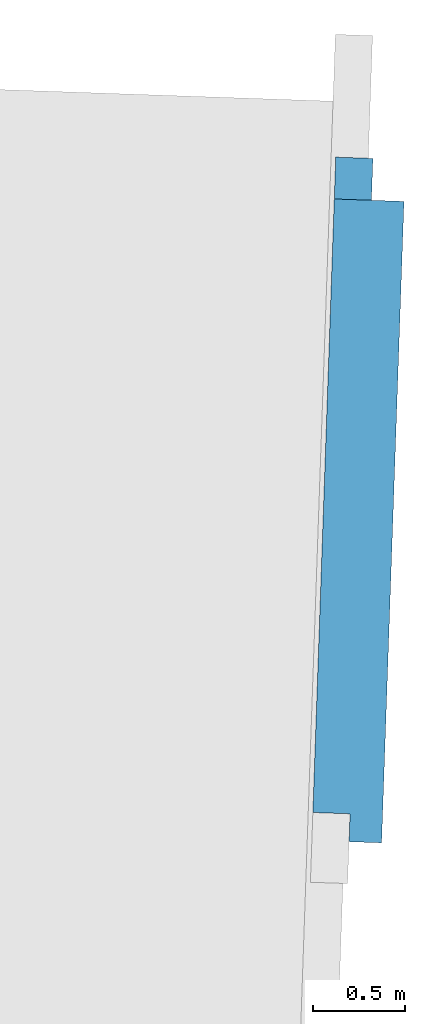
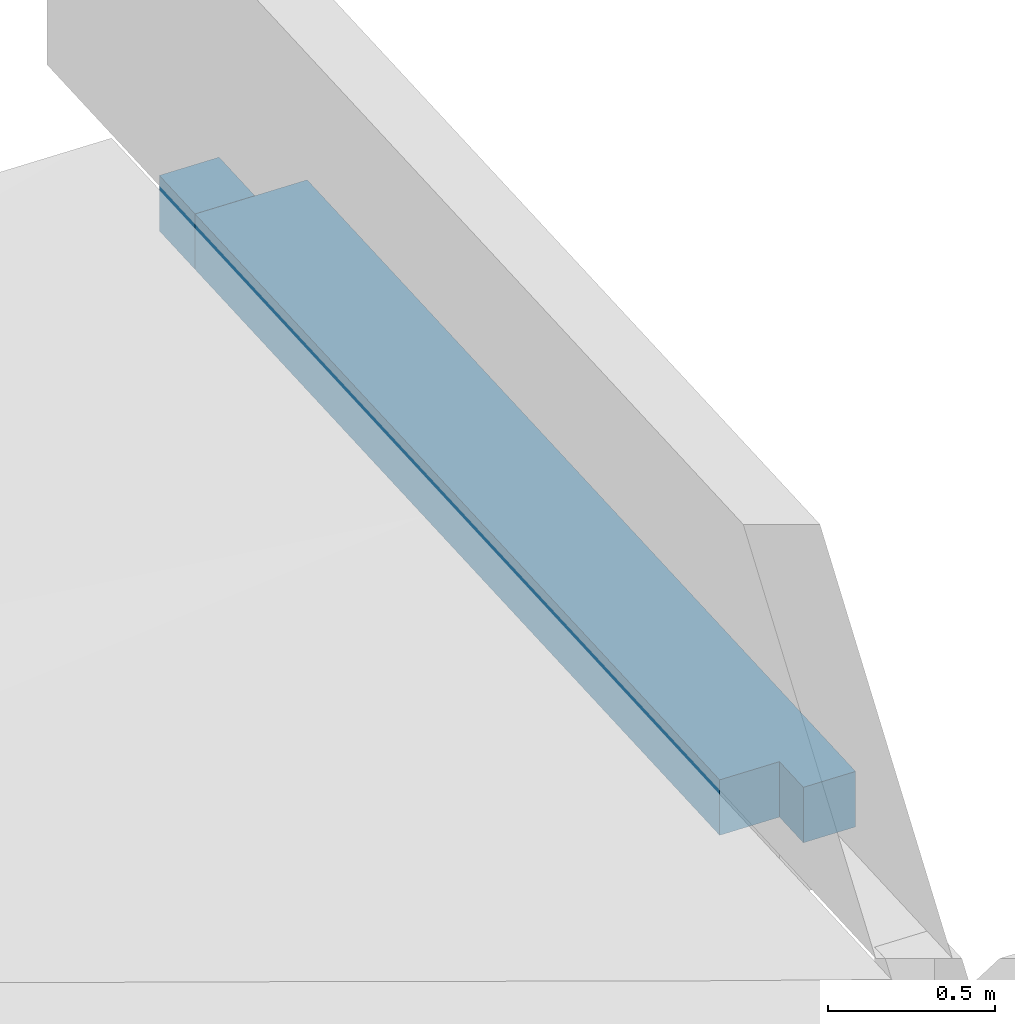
# One storey, part 4 of 8: 2 beams.
"""IFC2X3 building model written with IfcOpenShell, lengths in feet."""

from ifc_helpers import new_model, entity, si_unit, converted_unit, derived_unit, direction, frame, origin, origin_2d_with_axis, place, context, subcontext, project, spatial, rectangle, extrude, faceted_brep, material, element, save


model = new_model("IFC2X3")

# Units and contexts
model_context = context("Model", 3, precision=0.0001, world=origin(), true_north=direction((0.999390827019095, 0.0348994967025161)))
body_context = subcontext(model_context, "Body", "Model", "MODEL_VIEW")
ifc_project = project(units=[converted_unit("LENGTHUNIT", "FOOT", entity("IfcRatioMeasure", 0.3048), si_unit("LENGTHUNIT", "METRE"), dimensions=[1, 0, 0, 0, 0, 0, 0]), converted_unit("AREAUNIT", "SQUARE FOOT", entity("IfcRatioMeasure", 0.09290304), si_unit("AREAUNIT", "SQUARE_METRE"), dimensions=[2, 0, 0, 0, 0, 0, 0]), converted_unit("VOLUMEUNIT", "CUBIC FOOT", entity("IfcRatioMeasure", 0.028316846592), si_unit("VOLUMEUNIT", "CUBIC_METRE"), dimensions=[3, 0, 0, 0, 0, 0, 0]), converted_unit("PLANEANGLEUNIT", "DEGREE", entity("IfcRatioMeasure", 0.0174532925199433), si_unit("PLANEANGLEUNIT", "RADIAN"), dimensions=[0, 0, 0, 0, 0, 0, 0]), si_unit("MASSUNIT", "GRAM", prefix="KILO"), si_unit("TIMEUNIT", "SECOND"), si_unit("FREQUENCYUNIT", "HERTZ"), si_unit("THERMODYNAMICTEMPERATUREUNIT", "DEGREE_CELSIUS"), derived_unit("THERMALTRANSMITTANCEUNIT", [(si_unit("MASSUNIT", "GRAM", prefix="KILO"), 1), (si_unit("THERMODYNAMICTEMPERATUREUNIT", "KELVIN"), -1), (si_unit("TIMEUNIT", "SECOND"), -3)]), derived_unit("VOLUMETRICFLOWRATEUNIT", [(si_unit("LENGTHUNIT", "METRE"), 3), (si_unit("TIMEUNIT", "SECOND"), -1)]), si_unit("ELECTRICCURRENTUNIT", "AMPERE"), si_unit("ELECTRICVOLTAGEUNIT", "VOLT"), si_unit("POWERUNIT", "WATT"), si_unit("FORCEUNIT", "NEWTON"), si_unit("ILLUMINANCEUNIT", "LUX"), si_unit("LUMINOUSFLUXUNIT", "LUMEN"), si_unit("LUMINOUSINTENSITYUNIT", "CANDELA"), derived_unit("USERDEFINED", [(si_unit("MASSUNIT", "GRAM", prefix="KILO"), -1), (si_unit("LENGTHUNIT", "METRE"), -2), (si_unit("TIMEUNIT", "SECOND"), 3), (si_unit("LUMINOUSFLUXUNIT", "LUMEN"), 1)]), derived_unit("LINEARVELOCITYUNIT", [(si_unit("LENGTHUNIT", "METRE"), 1), (si_unit("TIMEUNIT", "SECOND"), -1)]), si_unit("PRESSUREUNIT", "PASCAL"), derived_unit("USERDEFINED", [(si_unit("LENGTHUNIT", "METRE"), -2), (si_unit("MASSUNIT", "GRAM", prefix="KILO"), 1), (si_unit("TIMEUNIT", "SECOND"), -2)])], contexts=[model_context])

# Site, building, storey
site_placement = place(None, frame((892.518771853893, 322.38689265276, 0.00393700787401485), z_axis=(0.0, 0.0, 1.0), x_axis=(0.0348994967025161, 0.999390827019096, 0.0)))
site = spatial("IfcSite", under=ifc_project, at=site_placement, Name="Default", CompositionType="ELEMENT")
building_placement = place(site_placement, origin())
building = spatial("IfcBuilding", under=site, at=building_placement, CompositionType="ELEMENT")
storey_placement = place(building_placement, frame((0.0, 0.0, 607.0)))
storey = spatial("IfcBuildingStorey", under=building, at=storey_placement, Name="Existing Garage - Roof Level", CompositionType="ELEMENT", Elevation=607.0)

# Beams
ifc_material = material(Name="Concrete - Cast-in-Place Concrete")
beam_1_placement = place(storey_placement, frame((209.677293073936, 235.180620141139, -0.666666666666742)))
element("IfcBeam", 1, at=beam_1_placement, inside=storey, material=ifc_material, Name="Concrete-Rectangular Beam:8\" x 15\"w", ObjectType="Concrete-Rectangular Beam:8\" x 15\"w", context=body_context, shape_type="Brep", body=[
    faceted_brep([(0.0, 0.0, 0.0), (0.0, 0.0, 0.666666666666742), (0.0, 0.583333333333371, 0.666666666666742), (0.0, 0.5833333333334, 0.0), (11.4999999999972, 0.0, 0.666666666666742), (11.4999999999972, 0.583333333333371, 0.666666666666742), (11.4999999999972, 1.25000000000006, 0.666666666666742), (0.500000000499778, 1.25000000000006, 0.666666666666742), (0.50000000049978, 0.583333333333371, 0.666666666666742), (11.4999999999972, 0.0, 0.0), (0.50000000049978, 0.583333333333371, 0.0), (0.500000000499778, 1.25000000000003, 0.0), (11.4999999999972, 1.25000000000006, 0.0), (11.4999999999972, 0.583333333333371, 0.0)], [[[0, 1, 2, 3]], [[1, 4, 5, 6, 7, 8, 2]], [[1, 0, 9, 4]], [[9, 0, 3, 10, 11, 12, 13]], [[6, 12, 11, 7]], [[10, 8, 7, 11]], [[8, 10, 3, 2]], [[6, 5, 4, 9, 13, 12]]]),
])
beam_2_placement = place(storey_placement, frame((221.177293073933, 236.097286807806, 0.0)))
element("IfcBeam", 2, at=beam_2_placement, inside=storey, material=ifc_material, Name="Concrete-Rectangular Beam:8\" x 8\"w", ObjectType="Concrete-Rectangular Beam:8\" x 8\"w", context=body_context, shape_type="SweptSolid", body=[
    extrude(rectangle(XDim=0.666666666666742, YDim=0.666666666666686, at=origin_2d_with_axis()), frame((0.0, 0.0, -0.333333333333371), z_axis=(1.0, 0.0, 0.0), x_axis=(0.0, 0.0, -1.0)), (0.0, 0.0, 1.0), 0.750000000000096),
])

save(model, "model.ifc")
